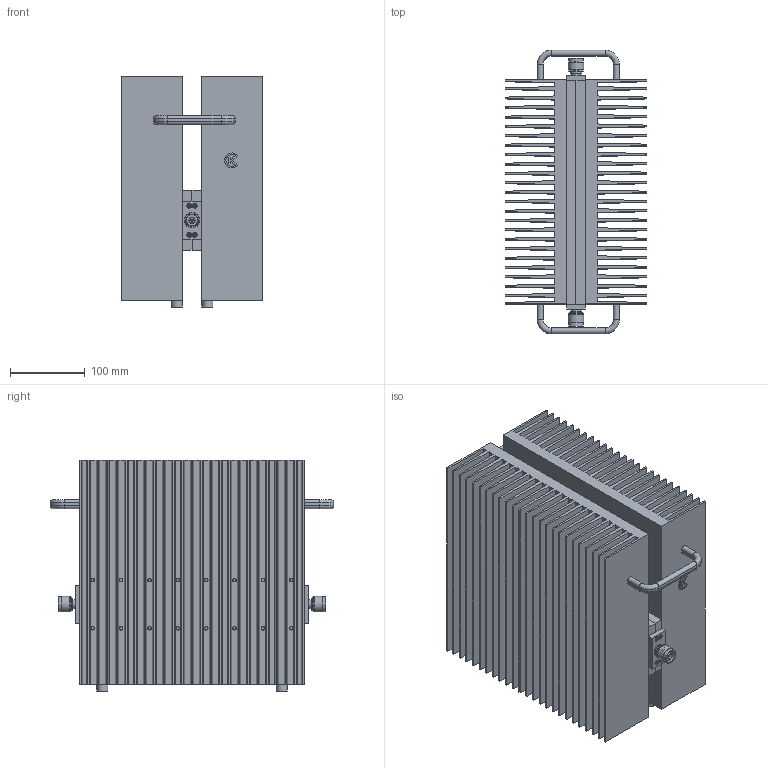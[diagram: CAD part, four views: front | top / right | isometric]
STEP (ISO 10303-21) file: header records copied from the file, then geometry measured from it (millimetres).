
FILE_DESCRIPTION(('STEP AP203'), '1');
FILE_NAME('ÏÐ1-25-1000', '', ('UNSPECIFIED'), ('UNSPECIFIED'), 'C3D Converter', 'C3D Toolkit', '');
FILE_SCHEMA(('CONFIG_CONTROL_DESIGN'));
Length unit declared in the file: millimetre
Products named in the file (16): -01
Assembly tree (53 placements, depth 3):
  (unnamed)
    (unnamed)
    (unnamed)
    (unnamed)  x2
    (unnamed)  x2
    (unnamed)  x2
    (unnamed)
      (unnamed)
      (unnamed)
      (unnamed)  x10
    (unnamed)  x4
    (unnamed)  x16
    (unnamed)  x2
    (unnamed)  x8
    (unnamed)
    -01
Bounding box: 189 x 380 x 310 mm (x, y, z)
Volume: 6918489.4 mm3; surface area: 2555271.6 mm2
Topology: 52 solids, 52 shells, 1194 faces, 2832 edges, 1834 vertices
Faces by surface type: plane 736, cylinder 284, torus 88, cone 86
Full cylindrical faces by diameter (mm): 1.65 x2, 3 x16, 3.04 x2, 3.242 x8, 4.917 x26, 5 x14, 5.5 x12, 6 x16, 6.2 x16, 6.5 x50, 7 x2, 8.04 x2, 8.5 x18, 9 x2, 10 x16, 11 x26, 11.6 x2, 12.7 x2, 14.94 x2, 15 x4, 15.75 x2, 16 x4, 16.5 x2, 17.46 x2, 17.8 x2, 19.8 x4, 20.85 x2
Entity records: 24915 total; most frequent: CARTESIAN_POINT 4209, DIRECTION 3110, ORIENTED_EDGE 2772, EDGE_CURVE 1386, AXIS2_PLACEMENT_3D 1129, EDGE_LOOP 1064, VERTEX_POINT 1038, LINE 852
